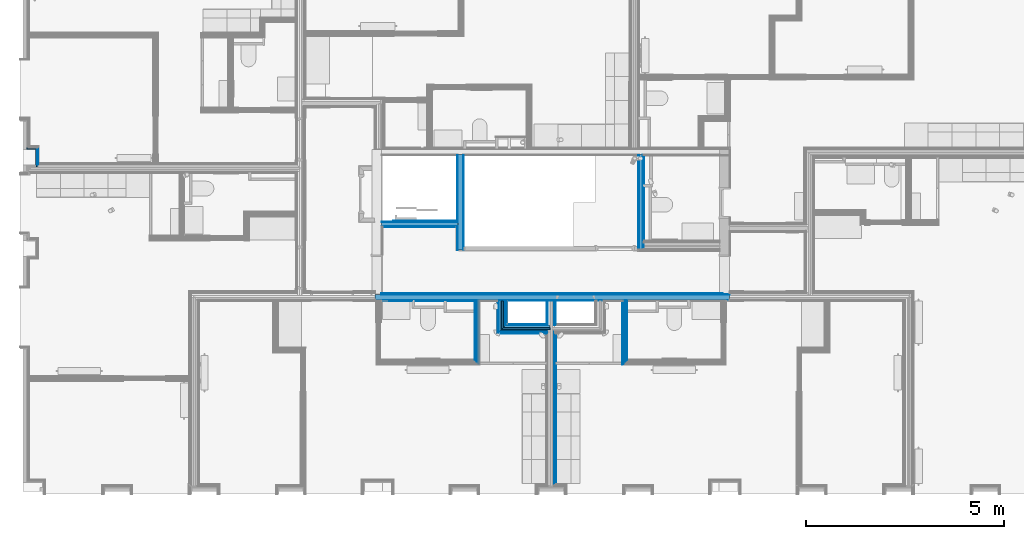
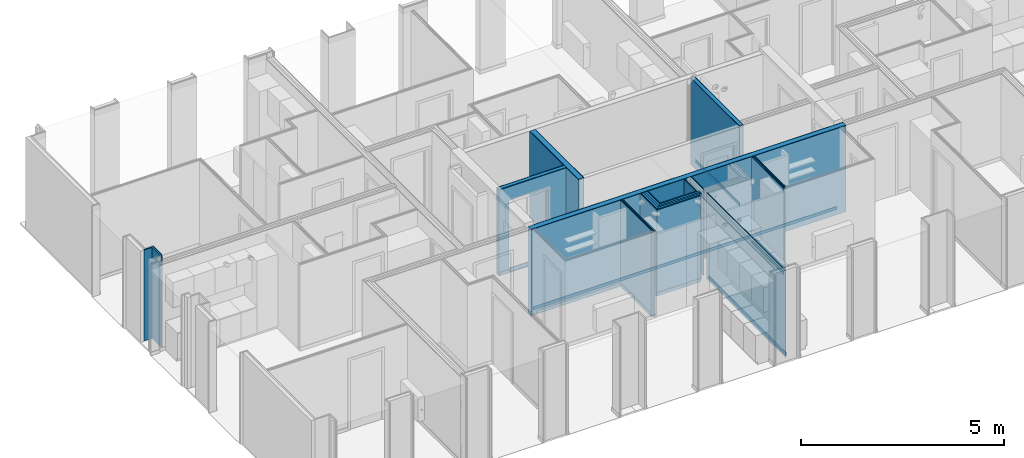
# One storey, part 12 of 82: 56 building element parts, 1 opening, 11 elements without a shape of their own.
"""IFC2X3 building model written with IfcOpenShell, lengths in metres."""

import ifcopenshell
import ifcopenshell.guid

model = None  # the IFC model being written
_history = None  # IfcOwnerHistory: only IFC2X3 demands one
_inside = {}  # id of a spatial element -> (the spatial element, [elements in it])
_under = {}  # id of a project, library or spatial element -> (it, [spatial elements below it])
_declared = {}  # id of a project -> (the project, [libraries it declares])
_typed = {}  # id of a type object -> (the type object, [elements of that type])
_made_of = {}  # id of a material, layer set ... -> (it, [elements and type objects made of it])


def new_model(schema):
    """Start an empty IFC model of exactly this schema.

    Asked for "IFC4X3", IfcOpenShell would pick the latest addendum, in which some entities
    have other attributes; the version numbers below select the first issue.
    IFC2X3 requires an IfcOwnerHistory on every rooted entity: one is made here for all.
    """
    global model, _history
    if schema == "IFC4X3":
        model = ifcopenshell.file(schema_version=(4, 3, 0, 0))
    else:
        model = ifcopenshell.file(schema=schema)
    _inside.clear()
    _under.clear()
    _declared.clear()
    _typed.clear()
    _made_of.clear()
    _history = None
    if model.schema == "IFC2X3":
        org = make("IfcOrganization", Name="unknown")
        user = make(
            "IfcPersonAndOrganization",
            ThePerson=make("IfcPerson", FamilyName="unknown"),
            TheOrganization=org,
        )
        app = make(
            "IfcApplication",
            ApplicationDeveloper=org,
            Version="unknown",
            ApplicationFullName="unknown",
            ApplicationIdentifier="unknown",
        )
        _history = make(
            "IfcOwnerHistory",
            OwningUser=user,
            OwningApplication=app,
            ChangeAction="ADDED",
            CreationDate=0,
        )
    return model


def make(cls, **values):
    """One entity of the class cls with the attributes given. An attribute that is None is left unset."""
    return model.create_entity(
        cls, **{name: value for name, value in values.items() if value is not None}
    )


def entity(cls, *values):
    """Any entity or typed value of the class cls, its attributes in the order of the schema. None: left unset."""
    e = model.create_entity(cls)
    for i, value in enumerate(values):
        if value is not None:
            e[i] = value
    return e


def rooted(cls, **values):
    """An entity with a GlobalId (a new one), such as an element, a storey or a relation."""
    return make(cls, GlobalId=ifcopenshell.guid.new(), OwnerHistory=_history, **values)


def si_unit(unit_type, name, prefix=None):
    """IfcSIUnit, for example si_unit("LENGTHUNIT", "METRE", prefix="MILLI")."""
    return make("IfcSIUnit", UnitType=unit_type, Prefix=prefix, Name=name)


def converted_unit(unit_type, name, factor, base, dimensions=None, offset=None):
    """IfcConversionBasedUnit, such as the inch: factor (a typed value) times the base unit."""
    return make(
        "IfcConversionBasedUnit"
        if offset is None
        else "IfcConversionBasedUnitWithOffset",
        ConversionOffset=offset,
        Dimensions=None
        if dimensions is None
        else entity("IfcDimensionalExponents", *dimensions),
        UnitType=unit_type,
        Name=name,
        ConversionFactor=make(
            "IfcMeasureWithUnit", ValueComponent=factor, UnitComponent=base
        ),
    )


def derived_unit(unit_type, elements):
    """IfcDerivedUnit: a product of units, each with its exponent."""
    return make(
        "IfcDerivedUnit",
        Elements=[
            make("IfcDerivedUnitElement", Unit=unit, Exponent=power)
            for unit, power in elements
        ],
        UnitType=unit_type,
    )


def money_unit(currency):
    """IfcMonetaryUnit."""
    return make("IfcMonetaryUnit", Currency=currency)


def assignment(units):
    """IfcUnitAssignment: the units of a project."""
    return None if units is None else make("IfcUnitAssignment", Units=units)


def point(xyz):
    """IfcCartesianPoint."""
    return None if xyz is None else make("IfcCartesianPoint", Coordinates=xyz)


def direction(xyz):
    """IfcDirection."""
    return None if xyz is None else make("IfcDirection", DirectionRatios=xyz)


def frame(location, z_axis=None, x_axis=None):
    """IfcAxis2Placement3D, a coordinate frame: its origin and axes. An axis left out is left unset."""
    return make(
        "IfcAxis2Placement3D",
        Location=point(location),
        Axis=direction(z_axis),
        RefDirection=direction(x_axis),
    )


def frame_2d(location, x_axis=None):
    """IfcAxis2Placement2D, a coordinate frame in the plane: its origin and x axis."""
    return make(
        "IfcAxis2Placement2D", Location=point(location), RefDirection=direction(x_axis)
    )


def origin_with_axes():
    """The frame at (0, 0, 0) with the z axis (0, 0, 1) and the x axis (1, 0, 0) written out."""
    return frame((0.0, 0.0, 0.0), z_axis=(0.0, 0.0, 1.0), x_axis=(1.0, 0.0, 0.0))


def place(relative_to, where):
    """IfcLocalPlacement: puts the frame where relative to a parent placement (None: the world)."""
    return make(
        "IfcLocalPlacement", PlacementRelTo=relative_to, RelativePlacement=where
    )


def context(
    kind, dimensions, precision=None, world=None, true_north=None, identifier=None
):
    """IfcGeometricRepresentationContext, for example the 3D "Model" context."""
    return make(
        "IfcGeometricRepresentationContext",
        ContextIdentifier=identifier,
        ContextType=kind,
        CoordinateSpaceDimension=dimensions,
        Precision=precision,
        WorldCoordinateSystem=world,
        TrueNorth=true_north,
    )


def subcontext(parent, identifier, kind, view, scale=None):
    """IfcGeometricRepresentationSubContext, for example "Body" below "Model"."""
    return make(
        "IfcGeometricRepresentationSubContext",
        ContextIdentifier=identifier,
        ContextType=kind,
        ParentContext=parent,
        TargetScale=scale,
        TargetView=view,
    )


def project(units=None, contexts=None):
    """IfcProject with its units and contexts."""
    return rooted(
        "IfcProject",
        Name="project",
        RepresentationContexts=contexts,
        UnitsInContext=assignment(units),
    )


def spatial(cls, under=None, at=None, **own):
    """A site, building, storey or space (cls), placed at a placement, below another one or the project."""
    s = rooted(cls, ObjectPlacement=at, **own)
    if under is not None:
        _under.setdefault(under.id(), (under, []))[1].append(s)
    return s


def polyline(points):
    """IfcPolyline through the points."""
    return make("IfcPolyline", Points=[point(p) for p in points])


def profile(cls, at=None, kind="AREA", **sizes):
    """A parametric profile (cls). Its sizes go by their IFC names, for example OverallWidth=200.0."""
    return make(cls, ProfileType=kind, Position=at, **sizes)


def rectangle(**sizes):
    """IfcRectangleProfileDef."""
    return profile("IfcRectangleProfileDef", **sizes)


def outline(outer, holes=None, kind="AREA"):
    """IfcArbitraryClosedProfileDef: a profile drawn as a closed curve; with holes, ...WithVoids."""
    if holes is None:
        return make("IfcArbitraryClosedProfileDef", ProfileType=kind, OuterCurve=outer)
    return make(
        "IfcArbitraryProfileDefWithVoids",
        ProfileType=kind,
        OuterCurve=outer,
        InnerCurves=holes,
    )


def extrude(swept, where, along, depth):
    """IfcExtrudedAreaSolid: the profile swept, set in the frame where, extruded along a direction by depth."""
    return make(
        "IfcExtrudedAreaSolid",
        SweptArea=swept,
        Position=where,
        ExtrudedDirection=direction(along),
        Depth=depth,
    )


def shape(context_of_items, identifier, shape_type, items):
    """IfcShapeRepresentation: the items that make up one representation, for example the "Body"."""
    return make(
        "IfcShapeRepresentation",
        ContextOfItems=context_of_items,
        RepresentationIdentifier=identifier,
        RepresentationType=shape_type,
        Items=items,
    )


def material(Name=None, Category=None):
    """IfcMaterial."""
    return make("IfcMaterial", Name=Name, Category=Category)


def made_of(thing, what):
    """Note that an element or type object is made of a material, layer set ...; save() writes the relation."""
    if what is not None:
        _made_of.setdefault(what.id(), (what, []))[1].append(thing)
    return thing


def type_object(cls, material=None, **own):
    """A type object (cls), such as IfcWallType, which elements share."""
    return made_of(rooted(cls, **own), material)


def element(
    cls,
    number,
    at=None,
    inside=None,
    cuts=None,
    type_object=None,
    material=None,
    context=None,
    identifier="Body",
    shape_type=None,
    held_by="IfcProductDefinitionShape",
    body=None,
    shapes=None,
    **own,
):
    """One element of the class cls, such as IfcWall. Its Tag is "e" and its number.

    at: its placement. inside: the storey or other place that contains it. cuts: it is an
    opening in that element (IfcRelVoidsElement). A single representation is given by context,
    identifier, shape_type and body (its items); several are given by shapes. held_by: the class
    of the entity that holds the representations. save() writes the other relations.
    """
    e = rooted(cls, Tag="e%d" % number, ObjectPlacement=at, **own)
    if body is not None:
        shapes = [shape(context, identifier, shape_type, body)]
    if shapes is not None:
        e.Representation = make(held_by, Representations=shapes)
    if inside is not None:
        _inside.setdefault(inside.id(), (inside, []))[1].append(e)
    if cuts is not None:
        rooted(
            "IfcRelVoidsElement", RelatingBuildingElement=cuts, RelatedOpeningElement=e
        )
    if type_object is not None:
        _typed.setdefault(type_object.id(), (type_object, []))[1].append(e)
    return made_of(e, material)


def aggregate(whole, parts):
    """IfcRelAggregates: a whole, such as a stair, and the parts it consists of."""
    return rooted("IfcRelAggregates", RelatingObject=whole, RelatedObjects=parts)


def save(model, path):
    """Write the relations noted so far, then the file.

    IfcRelAggregates (storeys below a building ...), IfcRelContainedInSpatialStructure (elements
    in a storey), IfcRelDefinesByType, IfcRelAssociatesMaterial and IfcRelDeclares: one each for
    every whole, place, type object, material and project.
    """
    for whole, parts in _under.values():
        aggregate(whole, parts)
    for where, things in _inside.values():
        rooted(
            "IfcRelContainedInSpatialStructure",
            RelatedElements=things,
            RelatingStructure=where,
        )
    for kind, things in _typed.values():
        rooted("IfcRelDefinesByType", RelatedObjects=things, RelatingType=kind)
    for what, things in _made_of.values():
        rooted("IfcRelAssociatesMaterial", RelatedObjects=things, RelatingMaterial=what)
    for by, libraries in _declared.values():
        rooted("IfcRelDeclares", RelatingContext=by, RelatedDefinitions=libraries)
    model.write(path)


model = new_model("IFC2X3")

# Units and contexts
model_context = context("Model", 3, precision=1e-05, world=origin_with_axes(), true_north=direction((0.0, 1.0)))
body_context = subcontext(model_context, "Body", "Model", "MODEL_VIEW", scale=1.0)
ifc_project = project(units=[si_unit("LENGTHUNIT", "METRE"), si_unit("AREAUNIT", "SQUARE_METRE"), si_unit("VOLUMEUNIT", "CUBIC_METRE"), si_unit("ABSORBEDDOSEUNIT", "GRAY"), si_unit("AMOUNTOFSUBSTANCEUNIT", "MOLE"), si_unit("DOSEEQUIVALENTUNIT", "SIEVERT"), si_unit("ELECTRICCAPACITANCEUNIT", "FARAD"), si_unit("ELECTRICCHARGEUNIT", "COULOMB"), si_unit("ELECTRICCONDUCTANCEUNIT", "SIEMENS"), si_unit("ELECTRICCURRENTUNIT", "AMPERE"), si_unit("ELECTRICRESISTANCEUNIT", "OHM"), si_unit("ELECTRICVOLTAGEUNIT", "VOLT"), si_unit("ENERGYUNIT", "JOULE"), si_unit("FORCEUNIT", "NEWTON"), si_unit("FREQUENCYUNIT", "HERTZ"), si_unit("ILLUMINANCEUNIT", "LUX"), si_unit("INDUCTANCEUNIT", "HENRY"), si_unit("LUMINOUSFLUXUNIT", "LUMEN"), si_unit("LUMINOUSINTENSITYUNIT", "CANDELA"), si_unit("MAGNETICFLUXDENSITYUNIT", "TESLA"), si_unit("MAGNETICFLUXUNIT", "WEBER"), si_unit("MASSUNIT", "GRAM"), converted_unit("PLANEANGLEUNIT", "degree", entity("IfcReal", 0.0174532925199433), si_unit("PLANEANGLEUNIT", "RADIAN"), dimensions=[0, 0, 0, 0, 0, 0, 0]), si_unit("POWERUNIT", "WATT"), si_unit("PRESSUREUNIT", "PASCAL"), si_unit("RADIOACTIVITYUNIT", "BECQUEREL"), si_unit("SOLIDANGLEUNIT", "STERADIAN"), si_unit("THERMODYNAMICTEMPERATUREUNIT", "KELVIN"), si_unit("TIMEUNIT", "SECOND"), derived_unit("ACCELERATIONUNIT", [(si_unit("LENGTHUNIT", "METRE"), 1), (si_unit("TIMEUNIT", "SECOND"), -2)]), derived_unit("ANGULARVELOCITYUNIT", [(converted_unit("PLANEANGLEUNIT", "degree", entity("IfcReal", 0.0174532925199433), si_unit("PLANEANGLEUNIT", "RADIAN"), dimensions=[0, 0, 0, 0, 0, 0, 0]), 1), (si_unit("TIMEUNIT", "SECOND"), -1)]), derived_unit("CURVATUREUNIT", [(converted_unit("PLANEANGLEUNIT", "degree", entity("IfcReal", 0.0174532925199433), si_unit("PLANEANGLEUNIT", "RADIAN"), dimensions=[0, 0, 0, 0, 0, 0, 0]), 1), (si_unit("LENGTHUNIT", "METRE"), -1)]), derived_unit("DYNAMICVISCOSITYUNIT", [(si_unit("PRESSUREUNIT", "PASCAL"), 1), (si_unit("TIMEUNIT", "SECOND"), 1)]), derived_unit("HEATFLUXDENSITYUNIT", [(si_unit("POWERUNIT", "WATT"), 1), (si_unit("LENGTHUNIT", "METRE"), -2)]), derived_unit("HEATINGVALUEUNIT", [(si_unit("ENERGYUNIT", "JOULE"), 1), (si_unit("MASSUNIT", "GRAM"), -1)]), derived_unit("INTEGERCOUNTRATEUNIT", [(si_unit("TIMEUNIT", "SECOND"), -1)]), derived_unit("IONCONCENTRATIONUNIT", [(si_unit("MASSUNIT", "GRAM"), 1), (si_unit("VOLUMEUNIT", "CUBIC_METRE"), -1)]), derived_unit("ISOTHERMALMOISTURECAPACITYUNIT", [(si_unit("VOLUMEUNIT", "CUBIC_METRE"), 1), (si_unit("MASSUNIT", "GRAM"), -1)]), derived_unit("KINEMATICVISCOSITYUNIT", [(si_unit("AREAUNIT", "SQUARE_METRE"), 1), (si_unit("TIMEUNIT", "SECOND"), -1)]), derived_unit("LINEARFORCEUNIT", [(si_unit("FORCEUNIT", "NEWTON"), 1), (si_unit("LENGTHUNIT", "METRE"), -1)]), derived_unit("LINEARMOMENTUNIT", [(si_unit("FORCEUNIT", "NEWTON"), 1), (si_unit("LENGTHUNIT", "METRE"), -1)]), derived_unit("LINEARSTIFFNESSUNIT", [(si_unit("FORCEUNIT", "NEWTON"), 1), (si_unit("LENGTHUNIT", "METRE"), -1)]), derived_unit("LINEARVELOCITYUNIT", [(si_unit("LENGTHUNIT", "METRE"), 1), (si_unit("TIMEUNIT", "SECOND"), -1)]), derived_unit("LUMINOUSINTENSITYDISTRIBUTIONUNIT", [(si_unit("LUMINOUSINTENSITYUNIT", "CANDELA"), 1), (si_unit("LUMINOUSFLUXUNIT", "LUMEN"), -1)]), derived_unit("MASSDENSITYUNIT", [(si_unit("MASSUNIT", "GRAM"), 1), (si_unit("VOLUMEUNIT", "CUBIC_METRE"), -1)]), derived_unit("MASSFLOWRATEUNIT", [(si_unit("MASSUNIT", "GRAM"), 1), (si_unit("TIMEUNIT", "SECOND"), -1)]), derived_unit("MASSPERLENGTHUNIT", [(si_unit("MASSUNIT", "GRAM"), 1), (si_unit("LENGTHUNIT", "METRE"), -1)]), derived_unit("MODULUSOFELASTICITYUNIT", [(si_unit("FORCEUNIT", "NEWTON"), 1), (si_unit("AREAUNIT", "SQUARE_METRE"), -1)]), derived_unit("MODULUSOFLINEARSUBGRADEREACTIONUNIT", [(si_unit("FORCEUNIT", "NEWTON"), 1), (si_unit("LENGTHUNIT", "METRE"), -2)]), derived_unit("MODULUSOFROTATIONALSUBGRADEREACTIONUNIT", [(si_unit("FORCEUNIT", "NEWTON"), 1), (si_unit("LENGTHUNIT", "METRE"), 1)]), derived_unit("MODULUSOFSUBGRADEREACTIONUNIT", [(si_unit("FORCEUNIT", "NEWTON"), 1), (si_unit("VOLUMEUNIT", "CUBIC_METRE"), -1)]), derived_unit("MOISTUREDIFFUSIVITYUNIT", [(si_unit("VOLUMEUNIT", "CUBIC_METRE"), 1), (si_unit("TIMEUNIT", "SECOND"), -1)]), derived_unit("MOLECULARWEIGHTUNIT", [(si_unit("MASSUNIT", "GRAM"), 1), (si_unit("AMOUNTOFSUBSTANCEUNIT", "MOLE"), -1)]), derived_unit("PLANARFORCEUNIT", [(si_unit("FORCEUNIT", "NEWTON"), 1), (si_unit("LENGTHUNIT", "METRE"), -2)]), derived_unit("ROTATIONALFREQUENCYUNIT", [(si_unit("TIMEUNIT", "SECOND"), -1)]), derived_unit("ROTATIONALMASSUNIT", [(si_unit("MASSUNIT", "GRAM"), 1), (si_unit("LENGTHUNIT", "METRE"), 2)]), derived_unit("ROTATIONALSTIFFNESSUNIT", [(si_unit("FORCEUNIT", "NEWTON"), 1), (si_unit("LENGTHUNIT", "METRE"), 1), (converted_unit("PLANEANGLEUNIT", "degree", entity("IfcReal", 0.0174532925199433), si_unit("PLANEANGLEUNIT", "RADIAN"), dimensions=[0, 0, 0, 0, 0, 0, 0]), -1)]), derived_unit("SECTIONAREAINTEGRALUNIT", [(si_unit("LENGTHUNIT", "METRE"), 5)]), derived_unit("SECTIONMODULUSUNIT", [(si_unit("LENGTHUNIT", "METRE"), 3)]), derived_unit("SHEARMODULUSUNIT", [(si_unit("FORCEUNIT", "NEWTON"), 1), (si_unit("AREAUNIT", "SQUARE_METRE"), -1)]), derived_unit("SOUNDPOWERUNIT", [(si_unit("ENERGYUNIT", "JOULE"), 1), (si_unit("TIMEUNIT", "SECOND"), -1)]), derived_unit("SPECIFICHEATCAPACITYUNIT", [(si_unit("FORCEUNIT", "NEWTON"), 1), (si_unit("MASSUNIT", "GRAM"), -1), (si_unit("THERMODYNAMICTEMPERATUREUNIT", "KELVIN"), -1)]), derived_unit("TEMPERATUREGRADIENTUNIT", [(si_unit("THERMODYNAMICTEMPERATUREUNIT", "KELVIN"), 1), (si_unit("LENGTHUNIT", "METRE"), -1)]), derived_unit("THERMALADMITTANCEUNIT", [(si_unit("POWERUNIT", "WATT"), 1), (si_unit("AREAUNIT", "SQUARE_METRE"), -1), (si_unit("THERMODYNAMICTEMPERATUREUNIT", "KELVIN"), -1)]), derived_unit("THERMALCONDUCTANCEUNIT", [(si_unit("POWERUNIT", "WATT"), 1), (si_unit("LENGTHUNIT", "METRE"), -1), (si_unit("THERMODYNAMICTEMPERATUREUNIT", "KELVIN"), -1)]), derived_unit("THERMALEXPANSIONCOEFFICIENTUNIT", [(si_unit("THERMODYNAMICTEMPERATUREUNIT", "KELVIN"), -1)]), derived_unit("THERMALRESISTANCEUNIT", [(si_unit("AREAUNIT", "SQUARE_METRE"), 1), (si_unit("POWERUNIT", "WATT"), -1)]), derived_unit("THERMALTRANSMITTANCEUNIT", [(si_unit("POWERUNIT", "WATT"), 1), (si_unit("AREAUNIT", "SQUARE_METRE"), -1), (si_unit("THERMODYNAMICTEMPERATUREUNIT", "KELVIN"), -1)]), derived_unit("TORQUEUNIT", [(si_unit("FORCEUNIT", "NEWTON"), 1), (si_unit("LENGTHUNIT", "METRE"), 1)]), derived_unit("VAPORPERMEABILITYUNIT", [(si_unit("MASSUNIT", "GRAM"), 1), (si_unit("TIMEUNIT", "SECOND"), -1)]), derived_unit("VOLUMETRICFLOWRATEUNIT", [(si_unit("VOLUMEUNIT", "CUBIC_METRE"), 1), (si_unit("TIMEUNIT", "SECOND"), -1)]), derived_unit("WARPINGCONSTANTUNIT", [(si_unit("LENGTHUNIT", "METRE"), 6)]), derived_unit("WARPINGMOMENTUNIT", [(si_unit("FORCEUNIT", "NEWTON"), 1), (si_unit("LENGTHUNIT", "METRE"), 2)]), money_unit("GBP")], contexts=[model_context])

# Site, building, storey
site_placement = place(None, origin_with_axes())
site = spatial("IfcSite", under=ifc_project, at=site_placement, Name="Site", CompositionType="ELEMENT")
building_placement = place(site_placement, origin_with_axes())
building = spatial("IfcBuilding", under=site, at=building_placement, Name="Building01", CompositionType="ELEMENT")
storey_placement = place(building_placement, frame((0.0, 0.0, 12.13), z_axis=(0.0, 0.0, 1.0), x_axis=(1.0, 0.0, 0.0)))
storey = spatial("IfcBuildingStorey", under=building, at=storey_placement, Name="3F", CompositionType="ELEMENT", Elevation=12.13)

# Wall, opening, building element parts
wall_type_1 = type_object("IfcWallType", Name="SHE_A-Walls_Type04a_BlockworkWall_130mm", PredefinedType="NOTDEFINED")
wall_1_placement = place(storey_placement, frame((11.145, 6.965, 0.0), z_axis=(0.0, 0.0, 1.0), x_axis=(-1.0, 0.0, 0.0)))
wall_1 = element("IfcWall", 1, at=wall_1_placement, inside=storey, type_object=wall_type_1, Name="4A", ObjectType="SHE_A-Walls_Type04a_BlockworkWall_130mm")
opening_placement = place(wall_1_placement, frame((0.5, -0.03, 0.03), z_axis=(0.0, 0.0, 1.0), x_axis=(1.0, 0.0, 0.0)))
element("IfcOpeningElement", 2, at=opening_placement, cuts=wall_1, Name="Opening", ObjectType="Opening", context=body_context, shape_type="SweptSolid", body=[
    extrude(rectangle(XDim=1.133302, YDim=2.14, at=frame_2d((-0.566651, 1.07), x_axis=(-1.0, 0.0))), frame((0.0, 0.0, 0.0), z_axis=(0.0, 1.0, 0.0), x_axis=(-1.0, 0.0, 0.0)), (0.0, 0.0, 1.0), 0.16),
])
ifc_material_1 = material(Name="A_BSUK_Walls_Timber")
placement_1 = place(wall_1_placement, origin_with_axes())
building_element_part_1 = element("IfcBuildingElementPart", 3, at=placement_1, material=ifc_material_1, Name="1", context=body_context, shape_type="SweptSolid", body=[
    extrude(outline(polyline([(0.0, -0.015), (0.015, -0.03), (1.633302, -0.03), (1.633302, -0.015), (0.0, -0.015)])), frame((0.0, 0.0, 0.015), z_axis=(0.0, 0.0, 1.0), x_axis=(1.0, 0.0, 0.0)), (0.0, 0.0, 1.0), 0.1),
])
ifc_material_2 = material(Name="A_BSUK_WallInternal_Finishes_Plasterboard")
building_element_part_2 = element("IfcBuildingElementPart", 4, at=placement_1, material=ifc_material_2, Name="2", context=body_context, shape_type="SweptSolid", body=[
    extrude(outline(polyline([(0.0, 0.0), (0.015, -0.015), (1.92, -0.015), (1.92, 0.0), (0.0, 0.0)])), origin_with_axes(), (0.0, 0.0, 1.0), 2.59),
])
ifc_material_3 = material(Name="A_BSUK_WallsInternal_Block")
building_element_part_3 = element("IfcBuildingElementPart", 5, at=placement_1, material=ifc_material_3, Name="3", context=body_context, shape_type="SweptSolid", body=[
    extrude(rectangle(XDim=0.1, YDim=1.92, at=frame_2d((0.96, 0.05), x_axis=(0.0, -1.0))), origin_with_axes(), (0.0, 0.0, 1.0), 2.59),
])
ifc_material_4 = material(Name="A_BSUK_WallInternal_Finishes_Plaster")
building_element_part_4 = element("IfcBuildingElementPart", 6, at=placement_1, material=ifc_material_4, Name="4", context=body_context, shape_type="SweptSolid", body=[
    extrude(outline(polyline([(0.015, 0.115), (0.0, 0.1), (1.92, 0.1), (1.92, 0.115), (0.015, 0.115)])), origin_with_axes(), (0.0, 0.0, 1.0), 2.59),
])
building_element_part_5 = element("IfcBuildingElementPart", 7, at=placement_1, material=ifc_material_1, Name="5", context=body_context, shape_type="SweptSolid", body=[
    extrude(outline(polyline([(1.9, 0.13), (0.03, 0.13), (0.015, 0.115), (1.9, 0.115), (1.9, 0.13)])), frame((0.0, 0.0, 0.015), z_axis=(0.0, 0.0, 1.0), x_axis=(1.0, 0.0, 0.0)), (0.0, 0.0, 1.0), 0.1),
])
aggregate(wall_1, [building_element_part_1, building_element_part_2, building_element_part_3, building_element_part_4, building_element_part_5])

# Wall, building element parts
wall_type_2 = type_object("IfcWallType", Name="SHE_A-Walls_Type03a_BlockworkWall_170mm", PredefinedType="NOTDEFINED")
wall_2_placement = place(storey_placement, frame((11.145, 6.263, 0.0), z_axis=(0.0, 0.0, 1.0), x_axis=(0.0, 1.0, 0.0)))
wall_2 = element("IfcWall", 8, at=wall_2_placement, inside=storey, type_object=wall_type_2, Name="4B", ObjectType="SHE_A-Walls_Type03a_BlockworkWall_170mm")
placement_2 = place(wall_2_placement, origin_with_axes())
building_element_part_6 = element("IfcBuildingElementPart", 9, at=placement_2, material=ifc_material_2, Name="2", context=body_context, shape_type="SweptSolid", body=[
    extrude(rectangle(XDim=2.387, YDim=0.015, at=frame_2d((1.1935, -0.1475), x_axis=(-1.0, 0.0))), origin_with_axes(), (0.0, 0.0, 1.0), 2.59),
])
building_element_part_7 = element("IfcBuildingElementPart", 10, at=placement_2, material=ifc_material_3, Name="3", context=body_context, shape_type="SweptSolid", body=[
    extrude(rectangle(XDim=2.402, YDim=0.14, at=frame_2d((1.201, -0.07), x_axis=(-1.0, 0.0))), origin_with_axes(), (0.0, 0.0, 1.0), 2.59),
])
building_element_part_8 = element("IfcBuildingElementPart", 11, at=placement_2, material=ifc_material_4, Name="4", context=body_context, shape_type="SweptSolid", body=[
    extrude(outline(polyline([(0.587, 0.015), (-0.013, 0.015), (-0.013, 0.0), (0.602, 0.0), (0.587, 0.015)])), origin_with_axes(), (0.0, 0.0, 1.0), 2.59),
])
building_element_part_9 = element("IfcBuildingElementPart", 12, at=placement_2, material=ifc_material_4, Name="5", context=body_context, shape_type="SweptSolid", body=[
    extrude(outline(polyline([(2.387, 0.015), (0.717, 0.015), (0.702, 0.0), (2.387, 0.0), (2.387, 0.015)])), origin_with_axes(), (0.0, 0.0, 1.0), 2.59),
])
aggregate(wall_2, [building_element_part_6, building_element_part_7, building_element_part_8, building_element_part_9])

wall_type_3 = type_object("IfcWallType", Name="SHE_A-Walls_Type01c_Partywall_225mm_twin_tall", PredefinedType="NOTDEFINED")
wall_3_placement = place(storey_placement, frame((12.288, 4.302428, 0.0), z_axis=(0.0, 0.0, 1.0), x_axis=(1.0, 0.0, 0.0)))
wall_3 = element("IfcWall", 13, at=wall_3_placement, inside=storey, type_object=wall_type_3, Name="1C", ObjectType="SHE_A-Walls_Type01c_Partywall_225mm_twin_tall")
placement_3 = place(wall_3_placement, origin_with_axes())
building_element_part_10 = element("IfcBuildingElementPart", 14, at=placement_3, material=ifc_material_1, Name="1", context=body_context, shape_type="SweptSolid", body=[
    extrude(rectangle(XDim=1.2375, YDim=0.015, at=frame_2d((0.46575, -0.1455), x_axis=(-1.0, 0.0))), frame((0.0, 0.0, 0.015), z_axis=(0.0, 0.0, 1.0), x_axis=(1.0, 0.0, 0.0)), (0.0, 0.0, 1.0), 0.1),
])
building_element_part_11 = element("IfcBuildingElementPart", 15, at=placement_3, material=ifc_material_2, Name="2", context=body_context, shape_type="SweptSolid", body=[
    extrude(outline(polyline([(1.0995, -0.123), (-0.123, -0.123), (-0.138, -0.138), (1.0995, -0.138), (1.0995, -0.123)])), origin_with_axes(), (0.0, 0.0, 1.0), 2.59),
])
building_element_part_12 = element("IfcBuildingElementPart", 16, at=placement_3, material=ifc_material_2, Name="3", context=body_context, shape_type="SweptSolid", body=[
    extrude(outline(polyline([(1.1145, -0.108), (-0.108, -0.108), (-0.123, -0.123), (1.1145, -0.123), (1.1145, -0.108)])), origin_with_axes(), (0.0, 0.0, 1.0), 2.59),
])
ifc_material_5 = material(Name="Air Cavity")
building_element_part_13 = element("IfcBuildingElementPart", 17, at=placement_3, material=ifc_material_5, Name="4", context=body_context, shape_type="SweptSolid", body=[
    extrude(outline(polyline([(1.1145, -0.05), (-0.05, -0.05), (-0.108, -0.108), (1.1145, -0.108), (1.1145, -0.05)])), origin_with_axes(), (0.0, 0.0, 1.0), 2.59),
])
ifc_material_6 = material(Name="A_BSUK_Insulation")
building_element_part_14 = element("IfcBuildingElementPart", 18, at=placement_3, material=ifc_material_6, Name="5", context=body_context, shape_type="SweptSolid", body=[
    extrude(outline(polyline([(1.1875, 0.0), (0.0, 0.0), (-0.05, -0.05), (1.1875, -0.05), (1.1875, 0.0)])), origin_with_axes(), (0.0, 0.0, 1.0), 2.59),
])
building_element_part_15 = element("IfcBuildingElementPart", 19, at=placement_3, material=ifc_material_5, Name="6", context=body_context, shape_type="SweptSolid", body=[
    extrude(outline(polyline([(1.1875, 0.057), (0.057, 0.057), (0.0, 0.0), (1.1875, 0.0), (1.1875, 0.057)])), origin_with_axes(), (0.0, 0.0, 1.0), 2.59),
])
building_element_part_16 = element("IfcBuildingElementPart", 20, at=placement_3, material=ifc_material_2, Name="7", context=body_context, shape_type="SweptSolid", body=[
    extrude(outline(polyline([(1.1145, 0.072), (0.072, 0.072), (0.057, 0.057), (1.1145, 0.057), (1.1145, 0.072)])), origin_with_axes(), (0.0, 0.0, 1.0), 2.59),
])
building_element_part_17 = element("IfcBuildingElementPart", 21, at=placement_3, material=ifc_material_2, Name="8", context=body_context, shape_type="SweptSolid", body=[
    extrude(outline(polyline([(1.1145, 0.087), (0.087, 0.087), (0.072, 0.072), (1.1145, 0.072), (1.1145, 0.087)])), origin_with_axes(), (0.0, 0.0, 1.0), 2.59),
])
aggregate(wall_3, [building_element_part_10, building_element_part_11, building_element_part_12, building_element_part_13, building_element_part_14, building_element_part_15, building_element_part_16, building_element_part_17])

wall_4_placement = place(storey_placement, frame((13.5005, 4.995, 0.0), z_axis=(0.0, 0.0, 1.0), x_axis=(0.0, -1.0, 0.0)))
wall_4 = element("IfcWall", 22, at=wall_4_placement, inside=storey, type_object=wall_type_3, Name="1C", ObjectType="SHE_A-Walls_Type01c_Partywall_225mm_twin_tall")
placement_4 = place(wall_4_placement, origin_with_axes())
building_element_part_18 = element("IfcBuildingElementPart", 23, at=placement_4, material=ifc_material_2, Name="2", context=body_context, shape_type="SweptSolid", body=[
    extrude(rectangle(XDim=0.590572, YDim=0.015, at=frame_2d((0.310286, -0.1055), x_axis=(-1.0, 0.0))), origin_with_axes(), (0.0, 0.0, 1.0), 2.59),
])
building_element_part_19 = element("IfcBuildingElementPart", 24, at=placement_4, material=ifc_material_2, Name="4", context=body_context, shape_type="SweptSolid", body=[
    extrude(rectangle(XDim=0.620572, YDim=0.015, at=frame_2d((0.325286, -0.0905), x_axis=(-1.0, 0.0))), origin_with_axes(), (0.0, 0.0, 1.0), 2.59),
])
building_element_part_20 = element("IfcBuildingElementPart", 25, at=placement_4, material=ifc_material_2, Name="9", context=body_context, shape_type="SweptSolid", body=[
    extrude(rectangle(XDim=0.620572, YDim=0.015, at=frame_2d((0.325286, 0.0895), x_axis=(-1.0, 0.0))), origin_with_axes(), (0.0, 0.0, 1.0), 2.59),
])
building_element_part_21 = element("IfcBuildingElementPart", 26, at=placement_4, material=ifc_material_2, Name="10", context=body_context, shape_type="SweptSolid", body=[
    extrude(rectangle(XDim=3.876428, YDim=0.015, at=frame_2d((2.738786, 0.0895), x_axis=(-1.0, 0.0))), origin_with_axes(), (0.0, 0.0, 1.0), 2.59),
])
building_element_part_22 = element("IfcBuildingElementPart", 27, at=placement_4, material=ifc_material_2, Name="11", context=body_context, shape_type="SweptSolid", body=[
    extrude(rectangle(XDim=0.590572, YDim=0.015, at=frame_2d((0.310286, 0.1045), x_axis=(-1.0, 0.0))), origin_with_axes(), (0.0, 0.0, 1.0), 2.59),
])
building_element_part_23 = element("IfcBuildingElementPart", 28, at=placement_4, material=ifc_material_2, Name="12", context=body_context, shape_type="SweptSolid", body=[
    extrude(rectangle(XDim=0.015, YDim=3.846428, at=frame_2d((2.738786, 0.1045), x_axis=(0.0, -1.0))), origin_with_axes(), (0.0, 0.0, 1.0), 2.59),
])
building_element_part_24 = element("IfcBuildingElementPart", 29, at=placement_4, material=ifc_material_1, Name="13", context=body_context, shape_type="SweptSolid", body=[
    extrude(rectangle(XDim=0.015, YDim=3.831428, at=frame_2d((2.746286, 0.1195), x_axis=(0.0, -1.0))), frame((0.0, 0.0, 0.015), z_axis=(0.0, 0.0, 1.0), x_axis=(1.0, 0.0, 0.0)), (0.0, 0.0, 1.0), 0.1),
])
aggregate(wall_4, [building_element_part_18, building_element_part_19, building_element_part_20, building_element_part_21, building_element_part_22, building_element_part_23, building_element_part_24])

wall_5_placement = place(storey_placement, frame((12.288, 4.98, 0.0), z_axis=(0.0, 0.0, 1.0), x_axis=(0.0, -1.0, 0.0)))
wall_5 = element("IfcWall", 30, at=wall_5_placement, inside=storey, type_object=wall_type_3, Name="1C", ObjectType="SHE_A-Walls_Type01c_Partywall_225mm_twin_tall")
placement_5 = place(wall_5_placement, origin_with_axes())
building_element_part_25 = element("IfcBuildingElementPart", 31, at=placement_5, material=ifc_material_2, Name="3", context=body_context, shape_type="SweptSolid", body=[
    extrude(outline(polyline([(0.800572, -0.123), (0.0, -0.123), (0.0, -0.138), (0.815572, -0.138), (0.800572, -0.123)])), origin_with_axes(), (0.0, 0.0, 1.0), 2.59),
])
building_element_part_26 = element("IfcBuildingElementPart", 32, at=placement_5, material=ifc_material_2, Name="4", context=body_context, shape_type="SweptSolid", body=[
    extrude(outline(polyline([(0.785572, -0.108), (0.0, -0.108), (0.0, -0.123), (0.800572, -0.123), (0.785572, -0.108)])), origin_with_axes(), (0.0, 0.0, 1.0), 2.59),
])
building_element_part_27 = element("IfcBuildingElementPart", 33, at=placement_5, material=ifc_material_5, Name="5", context=body_context, shape_type="SweptSolid", body=[
    extrude(outline(polyline([(0.727572, -0.05), (0.0, -0.05), (0.0, -0.108), (0.785572, -0.108), (0.727572, -0.05)])), origin_with_axes(), (0.0, 0.0, 1.0), 2.59),
])
building_element_part_28 = element("IfcBuildingElementPart", 34, at=placement_5, material=ifc_material_6, Name="6", context=body_context, shape_type="SweptSolid", body=[
    extrude(outline(polyline([(0.677572, 0.0), (0.0, 0.0), (0.0, -0.05), (0.727572, -0.05), (0.677572, 0.0)])), origin_with_axes(), (0.0, 0.0, 1.0), 2.59),
])
building_element_part_29 = element("IfcBuildingElementPart", 35, at=placement_5, material=ifc_material_5, Name="7", context=body_context, shape_type="SweptSolid", body=[
    extrude(outline(polyline([(0.620572, 0.057), (0.0, 0.057), (0.0, 0.0), (0.677572, 0.0), (0.620572, 0.057)])), origin_with_axes(), (0.0, 0.0, 1.0), 2.59),
])
building_element_part_30 = element("IfcBuildingElementPart", 36, at=placement_5, material=ifc_material_2, Name="8", context=body_context, shape_type="SweptSolid", body=[
    extrude(outline(polyline([(0.605572, 0.072), (0.0, 0.072), (0.0, 0.057), (0.620572, 0.057), (0.605572, 0.072)])), origin_with_axes(), (0.0, 0.0, 1.0), 2.59),
])
building_element_part_31 = element("IfcBuildingElementPart", 37, at=placement_5, material=ifc_material_2, Name="9", context=body_context, shape_type="SweptSolid", body=[
    extrude(outline(polyline([(0.590572, 0.087), (0.0, 0.087), (0.0, 0.072), (0.605572, 0.072), (0.590572, 0.087)])), origin_with_axes(), (0.0, 0.0, 1.0), 2.59),
])
aggregate(wall_5, [building_element_part_25, building_element_part_26, building_element_part_27, building_element_part_28, building_element_part_29, building_element_part_30, building_element_part_31])

wall_6_placement = place(storey_placement, frame((15.715, 8.665, 0.0), z_axis=(0.0, 0.0, 1.0), x_axis=(0.0, -1.0, 0.0)))
wall_6 = element("IfcWall", 38, at=wall_6_placement, inside=storey, type_object=wall_type_1, Name="4A", ObjectType="SHE_A-Walls_Type04a_BlockworkWall_130mm")
placement_6 = place(wall_6_placement, origin_with_axes())
building_element_part_32 = element("IfcBuildingElementPart", 39, at=placement_6, material=ifc_material_2, Name="2", context=body_context, shape_type="SweptSolid", body=[
    extrude(rectangle(XDim=2.385, YDim=0.015, at=frame_2d((1.2075, -0.0075), x_axis=(-1.0, 0.0))), origin_with_axes(), (0.0, 0.0, 1.0), 2.59),
])
building_element_part_33 = element("IfcBuildingElementPart", 40, at=placement_6, material=ifc_material_3, Name="3", context=body_context, shape_type="SweptSolid", body=[
    extrude(rectangle(XDim=0.1, YDim=2.4, at=frame_2d((1.2, 0.05), x_axis=(0.0, -1.0))), origin_with_axes(), (0.0, 0.0, 1.0), 2.59),
])
building_element_part_34 = element("IfcBuildingElementPart", 41, at=placement_6, material=ifc_material_4, Name="4", context=body_context, shape_type="SweptSolid", body=[
    extrude(rectangle(XDim=0.015, YDim=2.4, at=frame_2d((1.2, 0.1075), x_axis=(0.0, -1.0))), origin_with_axes(), (0.0, 0.0, 1.0), 2.59),
])
building_element_part_35 = element("IfcBuildingElementPart", 42, at=placement_6, material=ifc_material_1, Name="5", context=body_context, shape_type="SweptSolid", body=[
    extrude(outline(polyline([(2.19, 0.13), (0.03, 0.13), (0.03, 0.115), (2.205, 0.115), (2.19, 0.13)])), frame((0.0, 0.0, 0.015), z_axis=(0.0, 0.0, 1.0), x_axis=(1.0, 0.0, 0.0)), (0.0, 0.0, 1.0), 0.1),
])
aggregate(wall_6, [building_element_part_32, building_element_part_33, building_element_part_34, building_element_part_35])

wall_type_4 = type_object("IfcWallType", Name="SHE_A-Walls_Type05a_Partition_95mm_tall", PredefinedType="NOTDEFINED")
wall_7_placement = place(storey_placement, frame((15.3475, 3.42, 0.0), z_axis=(0.0, 0.0, 1.0), x_axis=(0.0, 1.0, 0.0)))
wall_7 = element("IfcWall", 43, at=wall_7_placement, inside=storey, type_object=wall_type_4, Name="5A", ObjectType="SHE_A-Walls_Type05a_Partition_95mm_tall")
placement_7 = place(wall_7_placement, origin_with_axes())
building_element_part_36 = element("IfcBuildingElementPart", 44, at=placement_7, material=ifc_material_1, Name="1", context=body_context, shape_type="SweptSolid", body=[
    extrude(outline(polyline([(1.545, -0.06), (0.06, -0.06), (0.075, -0.075), (1.545, -0.075), (1.545, -0.06)])), frame((0.0, 0.0, 0.015), z_axis=(0.0, 0.0, 1.0), x_axis=(1.0, 0.0, 0.0)), (0.0, 0.0, 1.0), 0.1),
])
building_element_part_37 = element("IfcBuildingElementPart", 45, at=placement_7, material=ifc_material_2, Name="2", context=body_context, shape_type="SweptSolid", body=[
    extrude(outline(polyline([(1.56, -0.048), (0.048, -0.048), (0.06, -0.06), (1.56, -0.06), (1.56, -0.048)])), origin_with_axes(), (0.0, 0.0, 1.0), 2.59),
])
building_element_part_38 = element("IfcBuildingElementPart", 46, at=placement_7, material=ifc_material_5, Name="3", context=body_context, shape_type="SweptSolid", body=[
    extrude(outline(polyline([(1.56, -0.025), (0.025, -0.025), (0.048, -0.048), (1.56, -0.048), (1.56, -0.025)])), origin_with_axes(), (0.0, 0.0, 1.0), 2.59),
])
building_element_part_39 = element("IfcBuildingElementPart", 47, at=placement_7, material=ifc_material_6, Name="4", context=body_context, shape_type="SweptSolid", body=[
    extrude(outline(polyline([(1.56, 0.0), (0.0, 0.0), (0.025, -0.025), (1.56, -0.025), (1.56, 0.0)])), origin_with_axes(), (0.0, 0.0, 1.0), 2.59),
])
building_element_part_40 = element("IfcBuildingElementPart", 48, at=placement_7, material=ifc_material_5, Name="5", context=body_context, shape_type="SweptSolid", body=[
    extrude(outline(polyline([(1.56, 0.023), (-0.023, 0.023), (0.0, 0.0), (1.56, 0.0), (1.56, 0.023)])), origin_with_axes(), (0.0, 0.0, 1.0), 2.59),
])
building_element_part_41 = element("IfcBuildingElementPart", 49, at=placement_7, material=ifc_material_2, Name="6", context=body_context, shape_type="SweptSolid", body=[
    extrude(outline(polyline([(1.56, 0.035), (-0.035, 0.035), (-0.023, 0.023), (1.56, 0.023), (1.56, 0.035)])), origin_with_axes(), (0.0, 0.0, 1.0), 2.59),
])
building_element_part_42 = element("IfcBuildingElementPart", 50, at=placement_7, material=ifc_material_1, Name="7", context=body_context, shape_type="SweptSolid", body=[
    extrude(outline(polyline([(1.545, 0.05), (-0.05, 0.05), (-0.035, 0.035), (1.545, 0.035), (1.545, 0.05)])), frame((0.0, 0.0, 0.015), z_axis=(0.0, 0.0, 1.0), x_axis=(1.0, 0.0, 0.0)), (0.0, 0.0, 1.0), 0.1),
])
aggregate(wall_7, [building_element_part_36, building_element_part_37, building_element_part_38, building_element_part_39, building_element_part_40, building_element_part_41, building_element_part_42])

wall_8_placement = place(storey_placement, frame((11.652536, 3.42, 0.0), z_axis=(0.0, 0.0, 1.0), x_axis=(0.0, 1.0, 0.0)))
wall_8 = element("IfcWall", 51, at=wall_8_placement, inside=storey, type_object=wall_type_4, Name="5A", ObjectType="SHE_A-Walls_Type05a_Partition_95mm_tall")
placement_8 = place(wall_8_placement, origin_with_axes())
building_element_part_43 = element("IfcBuildingElementPart", 52, at=placement_8, material=ifc_material_5, Name="3", context=body_context, shape_type="SweptSolid", body=[
    extrude(outline(polyline([(1.56, 0.0), (0.0, 0.0), (-0.023, -0.023), (1.56, -0.023), (1.56, 0.0)])), origin_with_axes(), (0.0, 0.0, 1.0), 2.59),
])
building_element_part_44 = element("IfcBuildingElementPart", 53, at=placement_8, material=ifc_material_6, Name="4", context=body_context, shape_type="SweptSolid", body=[
    extrude(outline(polyline([(1.56, 0.025), (0.025, 0.025), (0.0, 0.0), (1.56, 0.0), (1.56, 0.025)])), origin_with_axes(), (0.0, 0.0, 1.0), 2.59),
])
building_element_part_45 = element("IfcBuildingElementPart", 54, at=placement_8, material=ifc_material_5, Name="5", context=body_context, shape_type="SweptSolid", body=[
    extrude(outline(polyline([(1.56, 0.048), (0.048, 0.048), (0.025, 0.025), (1.56, 0.025), (1.56, 0.048)])), origin_with_axes(), (0.0, 0.0, 1.0), 2.59),
])
building_element_part_46 = element("IfcBuildingElementPart", 55, at=placement_8, material=ifc_material_2, Name="6", context=body_context, shape_type="SweptSolid", body=[
    extrude(outline(polyline([(1.56, 0.06), (0.06, 0.06), (0.048, 0.048), (1.56, 0.048), (1.56, 0.06)])), origin_with_axes(), (0.0, 0.0, 1.0), 2.59),
])
building_element_part_47 = element("IfcBuildingElementPart", 56, at=placement_8, material=ifc_material_1, Name="7", context=body_context, shape_type="SweptSolid", body=[
    extrude(outline(polyline([(1.545, 0.075), (0.075, 0.075), (0.06, 0.06), (1.545, 0.06), (1.545, 0.075)])), frame((0.0, 0.0, 0.015), z_axis=(0.0, 0.0, 1.0), x_axis=(1.0, 0.0, 0.0)), (0.0, 0.0, 1.0), 0.1),
])
aggregate(wall_8, [building_element_part_43, building_element_part_44, building_element_part_45, building_element_part_46, building_element_part_47])

wall_9_placement = place(storey_placement, frame((9.06, 4.995, 0.0), z_axis=(0.0, 0.0, 1.0), x_axis=(1.0, 0.0, 0.0)))
wall_9 = element("IfcWall", 57, at=wall_9_placement, inside=storey, type_object=wall_type_2, Name="4B", ObjectType="SHE_A-Walls_Type03a_BlockworkWall_170mm")
placement_9 = place(wall_9_placement, origin_with_axes())
building_element_part_48 = element("IfcBuildingElementPart", 58, at=placement_9, material=ifc_material_1, Name="4", context=body_context, shape_type="SweptSolid", body=[
    extrude(rectangle(XDim=2.385, YDim=0.015, at=frame_2d((1.340036, -0.0225), x_axis=(-1.0, 0.0))), frame((0.0, 0.0, 0.015), z_axis=(0.0, 0.0, 1.0), x_axis=(1.0, 0.0, 0.0)), (0.0, 0.0, 1.0), 0.1),
])
building_element_part_49 = element("IfcBuildingElementPart", 59, at=placement_9, material=ifc_material_2, Name="7", context=body_context, shape_type="SweptSolid", body=[
    extrude(rectangle(XDim=8.94, YDim=0.015, at=frame_2d((4.47, -0.0075), x_axis=(-1.0, 0.0))), origin_with_axes(), (0.0, 0.0, 1.0), 2.59),
])
building_element_part_50 = element("IfcBuildingElementPart", 60, at=placement_9, material=ifc_material_3, Name="8", context=body_context, shape_type="SweptSolid", body=[
    extrude(rectangle(XDim=8.94, YDim=0.14, at=frame_2d((4.47, 0.07), x_axis=(-1.0, 0.0))), origin_with_axes(), (0.0, 0.0, 1.0), 2.59),
])
building_element_part_51 = element("IfcBuildingElementPart", 61, at=placement_9, material=ifc_material_4, Name="9", context=body_context, shape_type="SweptSolid", body=[
    extrude(rectangle(XDim=8.785, YDim=0.015, at=frame_2d((4.5475, 0.1475), x_axis=(-1.0, 0.0))), origin_with_axes(), (0.0, 0.0, 1.0), 2.59),
])
building_element_part_52 = element("IfcBuildingElementPart", 62, at=placement_9, material=ifc_material_1, Name="10", context=body_context, shape_type="SweptSolid", body=[
    extrude(rectangle(XDim=8.615, YDim=0.015, at=frame_2d((4.4625, 0.1625), x_axis=(-1.0, 0.0))), frame((0.0, 0.0, 0.015), z_axis=(0.0, 0.0, 1.0), x_axis=(1.0, 0.0, 0.0)), (0.0, 0.0, 1.0), 0.1),
])
aggregate(wall_9, [building_element_part_48, building_element_part_49, building_element_part_50, building_element_part_51, building_element_part_52])

wall_type_5 = type_object("IfcWallType", Name="SHE_A-Walls_Type06f_ExternalWallInsulation_48+15mm", PredefinedType="NOTDEFINED")
wall_10_placement = place(storey_placement, frame((0.499178, 8.361548, 0.0), z_axis=(0.0, 0.0, 1.0), x_axis=(0.0, 1.0, 0.0)))
wall_10 = element("IfcWall", 63, at=wall_10_placement, inside=storey, type_object=wall_type_5, Name="6F", ObjectType="SHE_A-Walls_Type06f_ExternalWallInsulation_48+15mm")
placement_10 = place(wall_10_placement, origin_with_axes())
building_element_part_53 = element("IfcBuildingElementPart", 64, at=placement_10, material=ifc_material_2, Name="2", context=body_context, shape_type="SweptSolid", body=[
    extrude(outline(polyline([(0.486452, -0.048), (0.059121, -0.048), (0.059121, -0.063), (0.501452, -0.063), (0.486452, -0.048)])), origin_with_axes(), (0.0, 0.0, 1.0), 2.74),
])
building_element_part_54 = element("IfcBuildingElementPart", 65, at=placement_10, material=ifc_material_2, Name="3", context=body_context, shape_type="SweptSolid", body=[
    extrude(rectangle(XDim=0.44233, YDim=0.012, at=frame_2d((0.265287, -0.042), x_axis=(-1.0, 0.0))), origin_with_axes(), (0.0, 0.0, 1.0), 2.74),
])
building_element_part_55 = element("IfcBuildingElementPart", 66, at=placement_10, material=ifc_material_6, Name="4", context=body_context, shape_type="SweptSolid", body=[
    extrude(rectangle(XDim=0.474452, YDim=0.036, at=frame_2d((0.237226, -0.018), x_axis=(-1.0, 0.0))), origin_with_axes(), (0.0, 0.0, 1.0), 2.74),
])
aggregate(wall_10, [building_element_part_53, building_element_part_54, building_element_part_55])

# Wall, building element part
wall_11_placement = place(storey_placement, frame((0.27, 8.8, 0.0), z_axis=(0.0, 0.0, 1.0), x_axis=(1.0, 0.0, 0.0)))
wall_11 = element("IfcWall", 67, at=wall_11_placement, inside=storey, type_object=wall_type_5, Name="6F", ObjectType="SHE_A-Walls_Type06f_ExternalWallInsulation_48+15mm")
building_element_part_56_placement = place(wall_11_placement, origin_with_axes())
building_element_part_56 = element("IfcBuildingElementPart", 68, at=building_element_part_56_placement, material=ifc_material_6, Name="1", context=body_context, shape_type="SweptSolid", body=[
    extrude(rectangle(XDim=0.229178, YDim=0.036, at=frame_2d((0.114589, 0.018), x_axis=(-1.0, 0.0))), origin_with_axes(), (0.0, 0.0, 1.0), 2.74),
])
aggregate(wall_11, [building_element_part_56])

save(model, "model.ifc")
